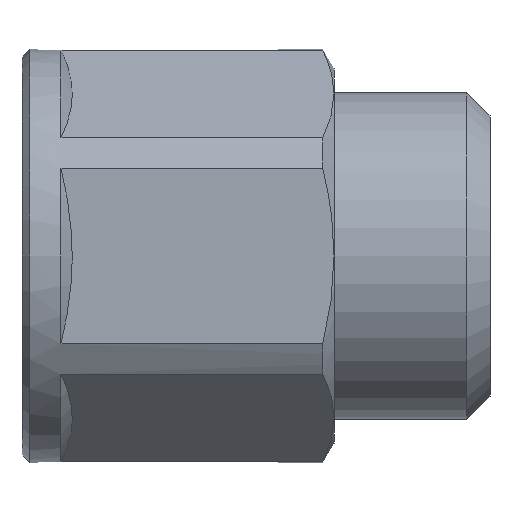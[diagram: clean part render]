
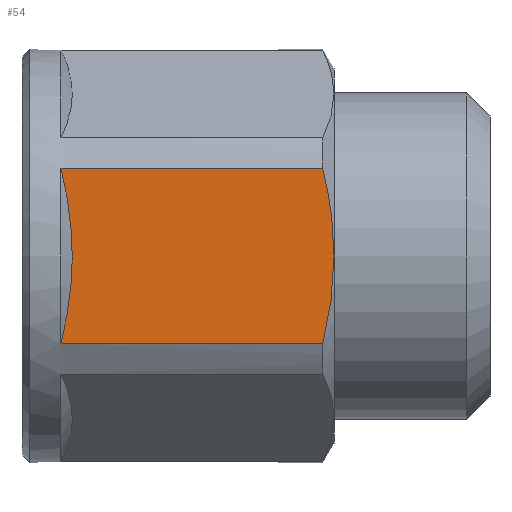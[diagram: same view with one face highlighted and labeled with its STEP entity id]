
A CAD part, left-side view. The second image highlights one B-rep face of the part: STEP entity #54.
In plain terms, the highlighted planar face has unit normal (-1, 0, 0).
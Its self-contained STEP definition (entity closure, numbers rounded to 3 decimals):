
#54=ADVANCED_FACE('',(#162),#164,.T.);
#162=FACE_BOUND('',#163,.T.);
#163=EDGE_LOOP('',(#355,#356,#357,#358,#359));
#164=PLANE('',#165);
#165=AXIS2_PLACEMENT_3D('',#166,#167,#168);
#166=CARTESIAN_POINT('',(-12.,0.,-6.928));
#167=DIRECTION('',(-1.,0.,0.));
#168=DIRECTION('',(0.,0.,1.));
#355=ORIENTED_EDGE('',*,*,#464,.F.);
#356=ORIENTED_EDGE('',*,*,#449,.T.);
#357=ORIENTED_EDGE('',*,*,#465,.T.);
#358=ORIENTED_EDGE('',*,*,#466,.T.);
#359=ORIENTED_EDGE('',*,*,#452,.T.);
#449=EDGE_CURVE('',#532,#533,#534,.F.);
#452=EDGE_CURVE('',#539,#537,#540,.T.);
#464=EDGE_CURVE('',#532,#537,#565,.T.);
#465=EDGE_CURVE('',#530,#566,#567,.T.);
#466=EDGE_CURVE('',#566,#539,#568,.T.);
#530=VERTEX_POINT('',#692);
#532=VERTEX_POINT('',#697);
#533=VERTEX_POINT('',#698);
#534=LINE('',#699,#700);
#537=VERTEX_POINT('',#707);
#539=VERTEX_POINT('',#712);
#540=LINE('',#713,#714);
#565=B_SPLINE_CURVE_WITH_KNOTS('',3,
(#768,#769,#770,#771,#772,#773,#774,#775,#776,#777,#778,#779,#780,#781,#782,#783,
#784,#785,#786,#787,#788,#789,#790,#791,#792,#793,#794,#795,#796,#797,#798,#799,
#800,#801,#802,#803,#804,#805,#806,#807,#808,#809,#810,#811,#812,#813,#814,#815),
.UNSPECIFIED.,.F.,.F.,
(4,1,1,1,1,1,1,1,1,1,1,1,1,1,1,1,1,1,1,1,1,1,1,1,1,1,1,1,1,1,1,1,1,1,1,1,1,1,1,1,
1,1,1,1,1,4),
(0.,0.017,0.033,0.05,0.062,
0.067,0.084,0.102,0.119,0.137,
0.156,0.177,0.199,0.201,0.24,
0.279,0.32,0.341,0.35,0.378,
0.405,0.432,0.457,0.46,0.488,
0.5,0.517,0.546,0.576,0.606,
0.616,0.635,0.665,0.696,0.726,
0.756,0.787,0.794,0.817,0.847,
0.878,0.908,0.931,0.939,0.969,
1.),
.UNSPECIFIED.);
#566=VERTEX_POINT('',#816);
#567=B_SPLINE_CURVE_WITH_KNOTS('',3,
(#817,#818,#819,#820,#821,#822,#823,#824,#825,#826,#827,#828,#829,#830,#831,#832,
#833,#834,#835,#836,#837,#838,#839,#840,#841,#842,#843,#844),
.UNSPECIFIED.,.F.,.F.,
(4,1,1,1,1,1,1,1,1,1,1,1,1,1,1,1,1,1,1,1,1,1,1,1,1,4),
(0.,0.023,0.081,0.097,0.174,0.195,
0.277,0.336,0.34,0.396,0.458,
0.516,0.546,0.561,0.61,0.659,
0.711,0.75,0.752,0.791,0.832,
0.873,0.915,0.926,0.958,1.),
.UNSPECIFIED.);
#568=B_SPLINE_CURVE_WITH_KNOTS('',3,
(#845,#846,#847,#848,#849,#850,#851,#852,#853,#854,#855,#856,#857,#858,#859,#860,
#861,#862,#863,#864,#865,#866,#867,#868,#869,#870),
.UNSPECIFIED.,.F.,.F.,
(4,1,1,1,1,1,1,1,1,1,1,1,1,1,1,1,1,1,1,1,1,1,1,4),
(0.,0.047,0.094,0.14,0.174,0.186,
0.231,0.275,0.317,0.358,0.399,
0.443,0.49,0.499,0.543,0.6,
0.677,0.73,0.762,0.85,0.894,
0.926,0.988,1.),
.UNSPECIFIED.);
#692=CARTESIAN_POINT('',(-12.,0.722,-5.618));
#697=CARTESIAN_POINT('',(-12.,17.5,-5.618));
#698=CARTESIAN_POINT('',(-12.,0.722,-5.618));
#699=CARTESIAN_POINT('',(-12.,0.722,-5.618));
#700=VECTOR('',#701,1.);
#701=DIRECTION('',(0.,1.,0.));
#707=CARTESIAN_POINT('',(-12.,17.5,5.618));
#712=CARTESIAN_POINT('',(-12.,0.722,5.618));
#713=CARTESIAN_POINT('',(-12.,0.722,5.618));
#714=VECTOR('',#715,1.);
#715=DIRECTION('',(0.,1.,0.));
#768=CARTESIAN_POINT('',(-12.,17.5,-5.618));
#769=CARTESIAN_POINT('',(-12.,17.485,-5.557));
#770=CARTESIAN_POINT('',(-12.,17.456,-5.435));
#771=CARTESIAN_POINT('',(-12.,17.412,-5.251));
#772=CARTESIAN_POINT('',(-12.,17.374,-5.083));
#773=CARTESIAN_POINT('',(-12.,17.346,-4.958));
#774=CARTESIAN_POINT('',(-12.,17.319,-4.831));
#775=CARTESIAN_POINT('',(-12.,17.287,-4.685));
#776=CARTESIAN_POINT('',(-12.,17.247,-4.491));
#777=CARTESIAN_POINT('',(-12.,17.208,-4.293));
#778=CARTESIAN_POINT('',(-12.,17.17,-4.092));
#779=CARTESIAN_POINT('',(-12.,17.131,-3.877));
#780=CARTESIAN_POINT('',(-12.,17.091,-3.649));
#781=CARTESIAN_POINT('',(-12.,17.063,-3.478));
#782=CARTESIAN_POINT('',(-12.,17.027,-3.245));
#783=CARTESIAN_POINT('',(-12.,16.982,-2.944));
#784=CARTESIAN_POINT('',(-12.,16.925,-2.499));
#785=CARTESIAN_POINT('',(-12.,16.884,-2.117));
#786=CARTESIAN_POINT('',(-12.,16.86,-1.85));
#787=CARTESIAN_POINT('',(-12.,16.842,-1.631));
#788=CARTESIAN_POINT('',(-12.,16.824,-1.39));
#789=CARTESIAN_POINT('',(-12.,16.806,-1.08));
#790=CARTESIAN_POINT('',(-12.,16.792,-0.781));
#791=CARTESIAN_POINT('',(-12.,16.786,-0.573));
#792=CARTESIAN_POINT('',(-12.,16.781,-0.359));
#793=CARTESIAN_POINT('',(-12.,16.779,-0.196));
#794=CARTESIAN_POINT('',(-12.,16.778,0.022));
#795=CARTESIAN_POINT('',(-12.,16.779,0.242));
#796=CARTESIAN_POINT('',(-12.,16.784,0.529));
#797=CARTESIAN_POINT('',(-12.,16.795,0.863));
#798=CARTESIAN_POINT('',(-12.,16.808,1.125));
#799=CARTESIAN_POINT('',(-12.,16.822,1.349));
#800=CARTESIAN_POINT('',(-12.,16.837,1.576));
#801=CARTESIAN_POINT('',(-12.,16.862,1.877));
#802=CARTESIAN_POINT('',(-12.,16.895,2.218));
#803=CARTESIAN_POINT('',(-12.,16.933,2.559));
#804=CARTESIAN_POINT('',(-12.,16.977,2.901));
#805=CARTESIAN_POINT('',(-12.,17.014,3.158));
#806=CARTESIAN_POINT('',(-12.,17.049,3.386));
#807=CARTESIAN_POINT('',(-12.,17.085,3.613));
#808=CARTESIAN_POINT('',(-12.,17.139,3.925));
#809=CARTESIAN_POINT('',(-12.,17.202,4.265));
#810=CARTESIAN_POINT('',(-12.,17.264,4.576));
#811=CARTESIAN_POINT('',(-12.,17.312,4.802));
#812=CARTESIAN_POINT('',(-12.,17.361,5.027));
#813=CARTESIAN_POINT('',(-12.,17.419,5.281));
#814=CARTESIAN_POINT('',(-12.,17.473,5.506));
#815=CARTESIAN_POINT('',(-12.,17.5,5.618));
#816=CARTESIAN_POINT('',(-12.,0.,0.));
#817=CARTESIAN_POINT('',(-12.,0.722,-5.618));
#818=CARTESIAN_POINT('',(-12.,0.711,-5.575));
#819=CARTESIAN_POINT('',(-12.,0.675,-5.426));
#820=CARTESIAN_POINT('',(-12.,0.633,-5.248));
#821=CARTESIAN_POINT('',(-12.,0.57,-4.97));
#822=CARTESIAN_POINT('',(-12.,0.524,-4.759));
#823=CARTESIAN_POINT('',(-12.,0.455,-4.425));
#824=CARTESIAN_POINT('',(-12.,0.397,-4.124));
#825=CARTESIAN_POINT('',(-12.,0.348,-3.853));
#826=CARTESIAN_POINT('',(-12.,0.31,-3.632));
#827=CARTESIAN_POINT('',(-12.,0.273,-3.405));
#828=CARTESIAN_POINT('',(-12.,0.223,-3.076));
#829=CARTESIAN_POINT('',(-12.,0.185,-2.793));
#830=CARTESIAN_POINT('',(-12.,0.16,-2.599));
#831=CARTESIAN_POINT('',(-12.,0.14,-2.424));
#832=CARTESIAN_POINT('',(-12.,0.116,-2.211));
#833=CARTESIAN_POINT('',(-12.,0.088,-1.929));
#834=CARTESIAN_POINT('',(-12.,0.066,-1.664));
#835=CARTESIAN_POINT('',(-12.,0.053,-1.49));
#836=CARTESIAN_POINT('',(-12.,0.043,-1.339));
#837=CARTESIAN_POINT('',(-12.,0.033,-1.185));
#838=CARTESIAN_POINT('',(-12.,0.021,-0.954));
#839=CARTESIAN_POINT('',(-12.,0.012,-0.718));
#840=CARTESIAN_POINT('',(-12.,0.007,-0.541));
#841=CARTESIAN_POINT('',(-12.,0.003,-0.381));
#842=CARTESIAN_POINT('',(-12.,0.001,-0.221));
#843=CARTESIAN_POINT('',(-12.,0.,-0.08));
#844=CARTESIAN_POINT('',(-12.,0.,0.));
#845=CARTESIAN_POINT('',(-12.,0.,0.));
#846=CARTESIAN_POINT('',(-12.,0.,0.089));
#847=CARTESIAN_POINT('',(-12.,0.001,0.266));
#848=CARTESIAN_POINT('',(-12.,0.006,0.532));
#849=CARTESIAN_POINT('',(-12.,0.014,0.771));
#850=CARTESIAN_POINT('',(-12.,0.021,0.945));
#851=CARTESIAN_POINT('',(-12.,0.03,1.117));
#852=CARTESIAN_POINT('',(-12.,0.041,1.308));
#853=CARTESIAN_POINT('',(-12.,0.058,1.556));
#854=CARTESIAN_POINT('',(-12.,0.077,1.797));
#855=CARTESIAN_POINT('',(-12.,0.098,2.032));
#856=CARTESIAN_POINT('',(-12.,0.122,2.268));
#857=CARTESIAN_POINT('',(-12.,0.15,2.515));
#858=CARTESIAN_POINT('',(-12.,0.173,2.702));
#859=CARTESIAN_POINT('',(-12.,0.198,2.891));
#860=CARTESIAN_POINT('',(-12.,0.226,3.098));
#861=CARTESIAN_POINT('',(-12.,0.277,3.432));
#862=CARTESIAN_POINT('',(-12.,0.335,3.78));
#863=CARTESIAN_POINT('',(-12.,0.39,4.082));
#864=CARTESIAN_POINT('',(-12.,0.451,4.403));
#865=CARTESIAN_POINT('',(-12.,0.513,4.706));
#866=CARTESIAN_POINT('',(-12.,0.579,5.008));
#867=CARTESIAN_POINT('',(-12.,0.637,5.264));
#868=CARTESIAN_POINT('',(-12.,0.683,5.46));
#869=CARTESIAN_POINT('',(-12.,0.716,5.597));
#870=CARTESIAN_POINT('',(-12.,0.722,5.618));
